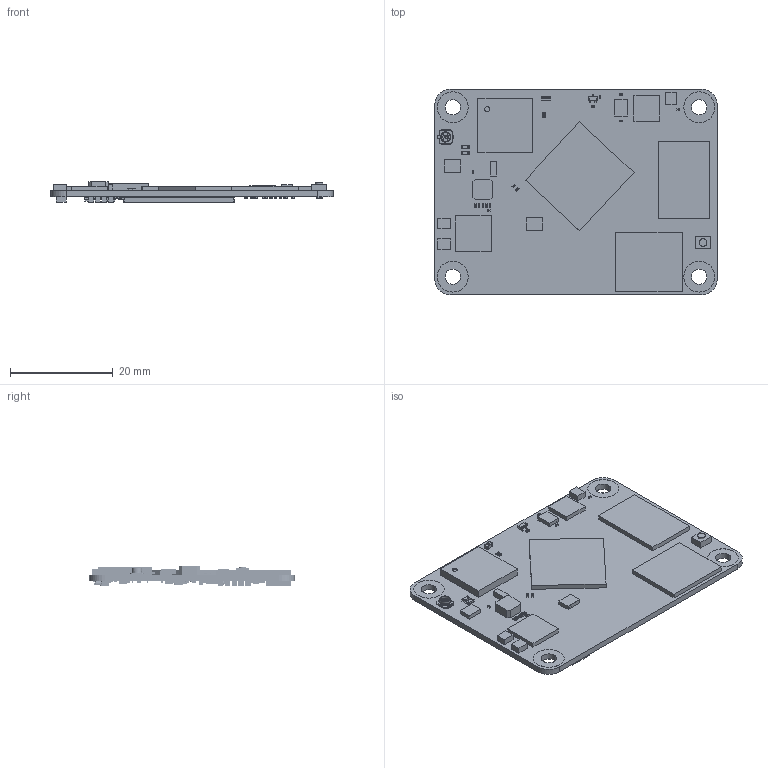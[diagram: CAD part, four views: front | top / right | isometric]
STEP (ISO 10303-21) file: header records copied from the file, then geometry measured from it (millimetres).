
FILE_DESCRIPTION((''),'2;1');
FILE_NAME('CORE3566_V1_2_ASM','2023-10-13T20:04:17',('xiaojisheng'),(''),'CREO PARAMETRIC BY PTC INC, 2021063','CREO PARAMETRIC BY PTC INC, 2021063','');
FILE_SCHEMA(('CONFIG_CONTROL_DESIGN','SHAPE_APPEARANCE_LAYERS_GROUPS'));
Products named in the file (190): BOARD; USER_LIBRARY-RES_0603-0201_1; USER_LIBRARY-RES_0603-0201_2; USER_LIBRARY-RES_0603-0201_3; USER_LIBRARY-RES_0603-0201_4; USER_LIBRARY-RES_0603-0201_ASM; R135_ASM; R134_ASM; R133_ASM; R132_ASM; R131_ASM; R130_ASM; R52_ASM; R15_ASM; USER_LIBRARY-SOT-523; Q8_ASM; 2_A; 300; _10001; C_0201-1099_AF1_ASM_ASM; C_0201-4408_AF1_ASM_ASM; 3D_MODEL_ASM; C184_ASM; 2_1_200; _1_1_20001; 3_1_2_A; C_0603-683_AF0_ASM_ASM; C_0603-7177_AF0_ASM_ASM; C_0603_ASM; C183_ASM; C147_ASM; C140_ASM; R50_ASM; R49_ASM; R47_ASM; R27_ASM; USER_LIBRARY-0201_0603M__CAP_1; USER_LIBRARY-0201_0603M__CAP_2; USER_LIBRARY-0201_0603M__CAP_3; USER_LIBRARY-0201_0603M__CAP_ASM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
Assembly tree (312 placements, depth 7):
  CORE3566_V1_2_ASM
    PCB_ASM
      BOARD
      R135_ASM
        USER_LIBRARY-RES_0603-0201_ASM
          USER_LIBRARY-RES_0603-0201_1
          USER_LIBRARY-RES_0603-0201_2
          USER_LIBRARY-RES_0603-0201_3
          USER_LIBRARY-RES_0603-0201_4
      R134_ASM
        USER_LIBRARY-RES_0603-0201_ASM
          USER_LIBRARY-RES_0603-0201_1
          USER_LIBRARY-RES_0603-0201_2
          USER_LIBRARY-RES_0603-0201_3
          USER_LIBRARY-RES_0603-0201_4
      R133_ASM
        USER_LIBRARY-RES_0603-0201_ASM
          USER_LIBRARY-RES_0603-0201_1
          USER_LIBRARY-RES_0603-0201_2
          USER_LIBRARY-RES_0603-0201_3
          USER_LIBRARY-RES_0603-0201_4
      R132_ASM
        USER_LIBRARY-RES_0603-0201_ASM
          USER_LIBRARY-RES_0603-0201_1
          USER_LIBRARY-RES_0603-0201_2
          USER_LIBRARY-RES_0603-0201_3
          USER_LIBRARY-RES_0603-0201_4
      R131_ASM
        USER_LIBRARY-RES_0603-0201_ASM
          USER_LIBRARY-RES_0603-0201_1
          USER_LIBRARY-RES_0603-0201_2
          USER_LIBRARY-RES_0603-0201_3
          USER_LIBRARY-RES_0603-0201_4
      R130_ASM
        USER_LIBRARY-RES_0603-0201_ASM
          USER_LIBRARY-RES_0603-0201_1
          USER_LIBRARY-RES_0603-0201_2
          USER_LIBRARY-RES_0603-0201_3
          USER_LIBRARY-RES_0603-0201_4
      R52_ASM
        USER_LIBRARY-RES_0603-0201_ASM
          USER_LIBRARY-RES_0603-0201_1
          USER_LIBRARY-RES_0603-0201_2
          USER_LIBRARY-RES_0603-0201_3
          USER_LIBRARY-RES_0603-0201_4
      R15_ASM
        USER_LIBRARY-RES_0603-0201_ASM
          USER_LIBRARY-RES_0603-0201_1
          USER_LIBRARY-RES_0603-0201_2
          USER_LIBRARY-RES_0603-0201_3
          USER_LIBRARY-RES_0603-0201_4
      Q8_ASM
        USER_LIBRARY-SOT-523
      C184_ASM
        3D_MODEL_ASM
          C_0201-4408_AF1_ASM_ASM
            C_0201-1099_AF1_ASM_ASM
              2_A
              300
              _10001
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Bounding box: 55 x 40 x 4.09 mm (x, y, z)
Volume: 3339.5 mm3; surface area: 7800.2 mm2
Topology: 435 solids, 438 shells, 14857 faces, 38729 edges, 25393 vertices
Faces by surface type: plane 9685, extrusion 3263, cylinder 1645, sphere 240, cone 22, bspline 2
Entity records: 164314 total; most frequent: CARTESIAN_POINT 35051, ORIENTED_EDGE 19536, DIRECTION 18526, PRESENTATION_STYLE_ASSIGNMENT 10341, STYLED_ITEM 9909, CURVE_STYLE 9836, EDGE_CURVE 9768, VECTOR 8080
